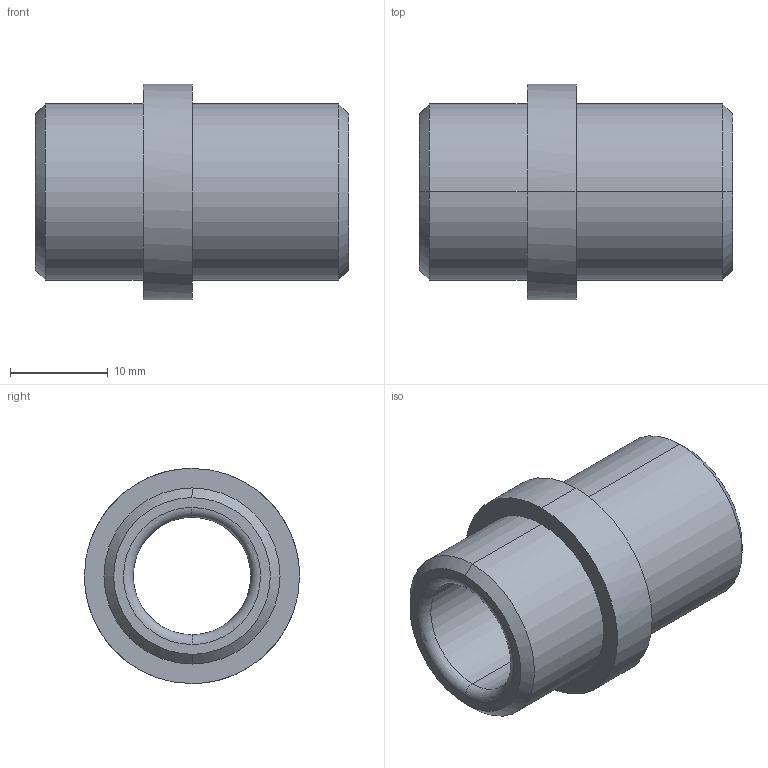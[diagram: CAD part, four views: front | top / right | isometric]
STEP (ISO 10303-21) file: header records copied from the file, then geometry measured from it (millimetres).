
FILE_DESCRIPTION(('CATIA V5 STEP Exchange'),'2;1');
FILE_NAME('C:\Users\Utente\Desktop\IO LAVORO\3D X SITO CF\X SITO\PLASTICA\G403\G403-12X32.stp','2021-04-21T12:00:16+00:00',('none'),('none'),'CATIA Version 5 Release 20 GA (IN-10)','CATIA V5 STEP AP203','none');
FILE_SCHEMA(('CONFIG_CONTROL_DESIGN'));
Length unit declared in the file: millimetre
Products named in the file (1): G403-12X32
Bounding box: 32 x 22 x 22 mm (x, y, z)
Volume: 5081 mm3; surface area: 3512.5 mm2
Topology: 1 solids, 1 shells, 20 faces, 64 edges, 48 vertices
Faces by surface type: cylinder 8, plane 4, cone 4, torus 4
Entity records: 906 total; most frequent: CARTESIAN_POINT 301, ORIENTED_EDGE 128, DIRECTION 92, EDGE_CURVE 64, AXIS2_PLACEMENT_3D 61, VERTEX_POINT 48, CIRCLE 40, EDGE_LOOP 24
